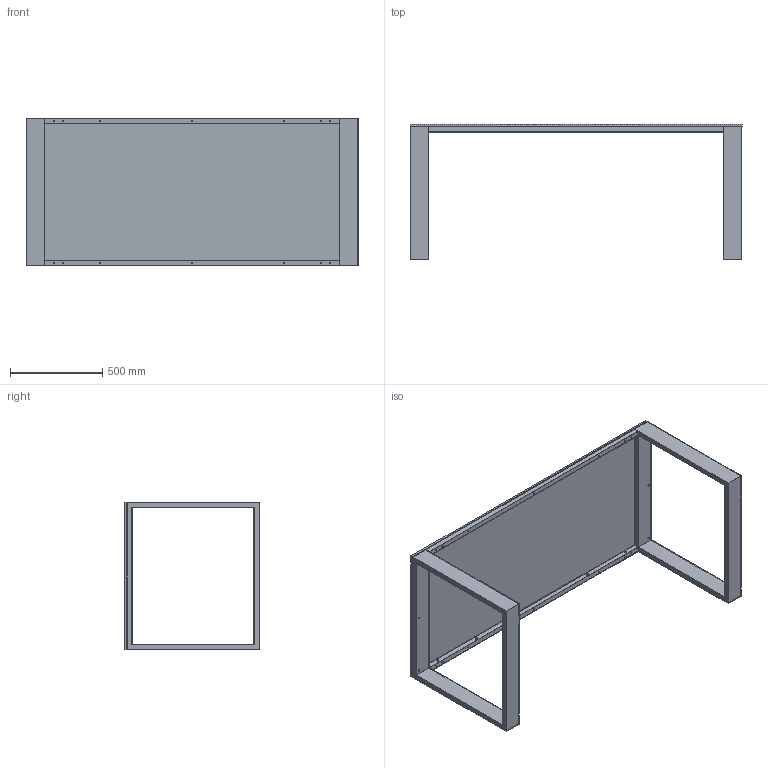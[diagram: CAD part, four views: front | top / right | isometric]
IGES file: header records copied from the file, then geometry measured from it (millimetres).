
Start section: SolidWorks IGES file using NURBS representation for surfaces
Global section: file name: G:\VICCARBE\PRODUCTOS\12-LEG-IN\04-MODELADOS (PLANOS)\SOLIDWORKS\LEG_IN 2011\ENSAMBLAJES\Mesas 3D\IGES\VICCARBE_LEB180.IGS; native system: SolidWorks 2009; preprocessor: SolidWorks 2009; author: RUBEN; date: 111024.094545; units: millimetre
Bounding box: 1800 x 732 x 800 mm (x, y, z)
Surface area: 6601742.4 mm2 (no closed solid volume)
Topology: 0 solids, 0 shells, 223 faces, 3984 edges, 3956 vertices
Faces by surface type: bspline 223
